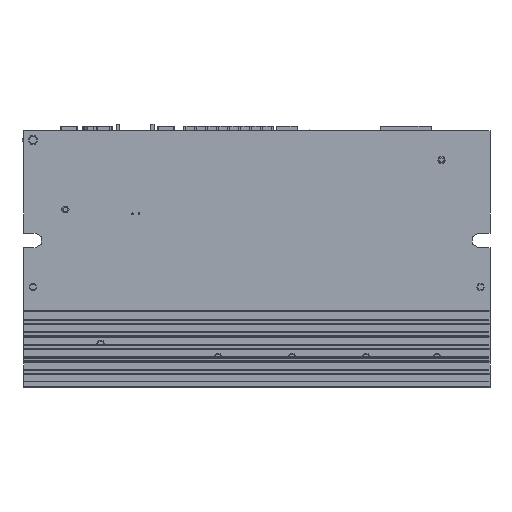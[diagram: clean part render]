
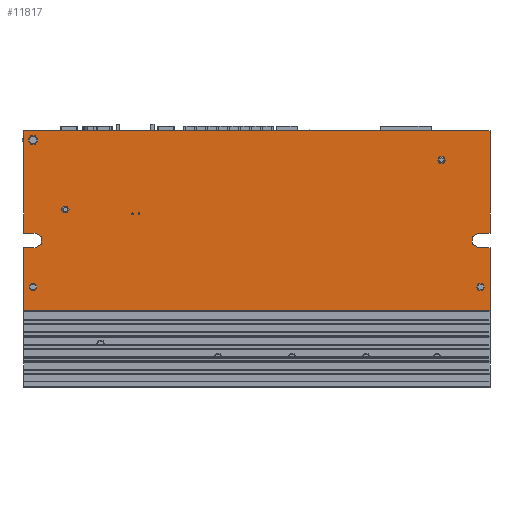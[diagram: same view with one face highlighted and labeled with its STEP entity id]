
A CAD part, front view. The second image highlights one B-rep face of the part: STEP entity #11817.
In plain terms, the highlighted planar face has unit normal (0, -1, 0).
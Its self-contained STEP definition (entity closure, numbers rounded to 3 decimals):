
#2729=CARTESIAN_POINT('',(133.3,7.3,21.6));
#2730=DIRECTION('',(0.,-1.,0.));
#2731=DIRECTION('',(1.,0.,0.));
#2732=AXIS2_PLACEMENT_3D('',#2729,#2730,#2731);
#2737=CARTESIAN_POINT('',(133.3,7.3,21.6));
#2738=DIRECTION('',(0.,-1.,0.));
#2739=DIRECTION('',(-1.,0.,0.));
#2740=AXIS2_PLACEMENT_3D('',#2737,#2738,#2739);
#2745=CARTESIAN_POINT('',(13.3,7.3,5.8));
#2746=DIRECTION('',(0.,-1.,0.));
#2747=DIRECTION('',(1.,0.,0.));
#2748=AXIS2_PLACEMENT_3D('',#2745,#2746,#2747);
#2753=CARTESIAN_POINT('',(13.3,7.3,5.8));
#2754=DIRECTION('',(0.,-1.,0.));
#2755=DIRECTION('',(-1.,0.,0.));
#2756=AXIS2_PLACEMENT_3D('',#2753,#2754,#2755);
#2761=CARTESIAN_POINT('',(3.,7.3,28.));
#2762=DIRECTION('',(0.,-1.,0.));
#2763=DIRECTION('',(1.,0.,0.));
#2764=AXIS2_PLACEMENT_3D('',#2761,#2762,#2763);
#2769=CARTESIAN_POINT('',(3.,7.3,28.));
#2770=DIRECTION('',(0.,-1.,0.));
#2771=DIRECTION('',(-1.,0.,0.));
#2772=AXIS2_PLACEMENT_3D('',#2769,#2770,#2771);
#2777=CARTESIAN_POINT('',(3.65,7.3,-4.05));
#2778=DIRECTION('',(0.,1.,0.));
#2779=DIRECTION('',(0.,0.,1.));
#2780=AXIS2_PLACEMENT_3D('',#2777,#2778,#2779);
#2785=DIRECTION('',(1.,0.,0.));
#2786=VECTOR('',#2785,3.65);
#2787=CARTESIAN_POINT('',(0.,7.3,-1.7));
#2788=LINE('',#2787,#2786);
#2792=DIRECTION('',(0.,0.,1.));
#2793=VECTOR('',#2792,32.7);
#2794=CARTESIAN_POINT('',(0.,7.3,-1.7));
#2795=LINE('',#2794,#2793);
#2799=DIRECTION('',(-1.,0.,0.));
#2800=VECTOR('',#2799,148.8);
#2801=CARTESIAN_POINT('',(148.8,7.3,31.));
#2802=LINE('',#2801,#2800);
#2806=DIRECTION('',(0.,0.,-1.));
#2807=VECTOR('',#2806,32.7);
#2808=CARTESIAN_POINT('',(148.8,7.3,31.));
#2809=LINE('',#2808,#2807);
#2813=DIRECTION('',(-1.,0.,0.));
#2814=VECTOR('',#2813,3.65);
#2815=CARTESIAN_POINT('',(148.8,7.3,-1.7));
#2816=LINE('',#2815,#2814);
#2820=CARTESIAN_POINT('',(145.15,7.3,-4.05));
#2821=DIRECTION('',(0.,1.,0.));
#2822=DIRECTION('',(0.,0.,-1.));
#2823=AXIS2_PLACEMENT_3D('',#2820,#2821,#2822);
#2828=DIRECTION('',(-1.,0.,0.));
#2829=VECTOR('',#2828,3.65);
#2830=CARTESIAN_POINT('',(148.8,7.3,-6.4));
#2831=LINE('',#2830,#2829);
#2835=DIRECTION('',(0.,0.,-1.));
#2836=VECTOR('',#2835,19.9);
#2837=CARTESIAN_POINT('',(148.8,7.3,-6.4));
#2838=LINE('',#2837,#2836);
#2842=DIRECTION('',(1.,0.,0.));
#2843=VECTOR('',#2842,148.8);
#2844=CARTESIAN_POINT('',(0.,7.3,-26.3));
#2845=LINE('',#2844,#2843);
#2849=DIRECTION('',(0.,0.,1.));
#2850=VECTOR('',#2849,19.9);
#2851=CARTESIAN_POINT('',(0.,7.3,-26.3));
#2852=LINE('',#2851,#2850);
#2856=DIRECTION('',(1.,0.,0.));
#2857=VECTOR('',#2856,3.65);
#2858=CARTESIAN_POINT('',(0.,7.3,-6.4));
#2859=LINE('',#2858,#2857);
#2863=CARTESIAN_POINT('',(3.,7.3,-18.9));
#2864=DIRECTION('',(0.,1.,0.));
#2865=DIRECTION('',(1.,0.,0.));
#2866=AXIS2_PLACEMENT_3D('',#2863,#2864,#2865);
#2871=CARTESIAN_POINT('',(3.,7.3,-18.9));
#2872=DIRECTION('',(0.,1.,0.));
#2873=DIRECTION('',(-1.,0.,0.));
#2874=AXIS2_PLACEMENT_3D('',#2871,#2872,#2873);
#2879=CARTESIAN_POINT('',(145.8,7.3,-18.9));
#2880=DIRECTION('',(0.,1.,0.));
#2881=DIRECTION('',(1.,0.,0.));
#2882=AXIS2_PLACEMENT_3D('',#2879,#2880,#2881);
#2887=CARTESIAN_POINT('',(145.8,7.3,-18.9));
#2888=DIRECTION('',(0.,1.,0.));
#2889=DIRECTION('',(-1.,0.,0.));
#2890=AXIS2_PLACEMENT_3D('',#2887,#2888,#2889);
#9476=CARTESIAN_POINT('',(0.,7.3,-26.3));
#9477=VERTEX_POINT('',#9476);
#9482=CARTESIAN_POINT('',(148.8,7.3,-26.3));
#9483=VERTEX_POINT('',#9482);
#10624=CARTESIAN_POINT('',(148.8,7.3,31.));
#10625=CARTESIAN_POINT('',(0.,7.3,31.));
#10626=VERTEX_POINT('',#10624);
#10627=VERTEX_POINT('',#10625);
#10692=CARTESIAN_POINT('',(3.65,7.3,-1.7));
#10693=CARTESIAN_POINT('',(3.65,7.3,-6.4));
#10694=VERTEX_POINT('',#10692);
#10695=VERTEX_POINT('',#10693);
#10696=CARTESIAN_POINT('',(0.,7.3,-6.4));
#10697=VERTEX_POINT('',#10696);
#10698=CARTESIAN_POINT('',(0.,7.3,-1.7));
#10699=VERTEX_POINT('',#10698);
#10700=CARTESIAN_POINT('',(148.8,7.3,-6.4));
#10701=CARTESIAN_POINT('',(145.15,7.3,-6.4));
#10702=VERTEX_POINT('',#10700);
#10703=VERTEX_POINT('',#10701);
#10704=CARTESIAN_POINT('',(145.15,7.3,-1.7));
#10705=VERTEX_POINT('',#10704);
#10706=CARTESIAN_POINT('',(148.8,7.3,-1.7));
#10707=VERTEX_POINT('',#10706);
#10708=CARTESIAN_POINT('',(4.5,7.3,28.));
#10709=CARTESIAN_POINT('',(1.5,7.3,28.));
#10710=VERTEX_POINT('',#10708);
#10711=VERTEX_POINT('',#10709);
#10790=CARTESIAN_POINT('',(4.25,7.3,-18.9));
#10791=CARTESIAN_POINT('',(1.75,7.3,-18.9));
#10792=VERTEX_POINT('',#10790);
#10793=VERTEX_POINT('',#10791);
#10798=CARTESIAN_POINT('',(147.05,7.3,-18.9));
#10799=CARTESIAN_POINT('',(144.55,7.3,-18.9));
#10800=VERTEX_POINT('',#10798);
#10801=VERTEX_POINT('',#10799);
#10806=CARTESIAN_POINT('',(134.55,7.3,21.6));
#10807=CARTESIAN_POINT('',(132.05,7.3,21.6));
#10808=VERTEX_POINT('',#10806);
#10809=VERTEX_POINT('',#10807);
#10814=CARTESIAN_POINT('',(14.55,7.3,5.8));
#10815=CARTESIAN_POINT('',(12.05,7.3,5.8));
#10816=VERTEX_POINT('',#10814);
#10817=VERTEX_POINT('',#10815);
#11760=CARTESIAN_POINT('',(148.8,7.3,-25.5));
#11761=DIRECTION('',(0.,-1.,0.));
#11762=DIRECTION('',(0.,0.,-1.));
#11763=AXIS2_PLACEMENT_3D('',#11760,#11761,#11762);
#11764=PLANE('',#11763);
#11766=ORIENTED_EDGE('',*,*,#11765,.F.);
#11768=ORIENTED_EDGE('',*,*,#11767,.F.);
#11769=ORIENTED_EDGE('',*,*,#10887,.T.);
#11771=ORIENTED_EDGE('',*,*,#11770,.F.);
#11773=ORIENTED_EDGE('',*,*,#11772,.T.);
#11775=ORIENTED_EDGE('',*,*,#11774,.T.);
#11777=ORIENTED_EDGE('',*,*,#11776,.F.);
#11779=ORIENTED_EDGE('',*,*,#11778,.F.);
#11781=ORIENTED_EDGE('',*,*,#11780,.T.);
#11783=ORIENTED_EDGE('',*,*,#11782,.F.);
#11784=ORIENTED_EDGE('',*,*,#10909,.T.);
#11786=ORIENTED_EDGE('',*,*,#11785,.T.);
#11787=EDGE_LOOP('',(#11766,#11768,#11769,#11771,#11773,#11775,#11777,#11779,
#11781,#11783,#11784,#11786));
#11788=FACE_OUTER_BOUND('',#11787,.F.);
#11790=ORIENTED_EDGE('',*,*,#11789,.T.);
#11792=ORIENTED_EDGE('',*,*,#11791,.T.);
#11793=EDGE_LOOP('',(#11790,#11792));
#11794=FACE_BOUND('',#11793,.F.);
#11795=ORIENTED_EDGE('',*,*,#11740,.T.);
#11796=ORIENTED_EDGE('',*,*,#11754,.T.);
#11797=EDGE_LOOP('',(#11795,#11796));
#11798=FACE_BOUND('',#11797,.F.);
#11800=ORIENTED_EDGE('',*,*,#11799,.T.);
#11802=ORIENTED_EDGE('',*,*,#11801,.T.);
#11803=EDGE_LOOP('',(#11800,#11802));
#11804=FACE_BOUND('',#11803,.F.);
#11806=ORIENTED_EDGE('',*,*,#11805,.F.);
#11808=ORIENTED_EDGE('',*,*,#11807,.F.);
#11809=EDGE_LOOP('',(#11806,#11808));
#11810=FACE_BOUND('',#11809,.F.);
#11812=ORIENTED_EDGE('',*,*,#11811,.F.);
#11814=ORIENTED_EDGE('',*,*,#11813,.F.);
#11815=EDGE_LOOP('',(#11812,#11814));
#11816=FACE_BOUND('',#11815,.F.);
#2733=CIRCLE('',#2732,1.25);
#2741=CIRCLE('',#2740,1.25);
#2749=CIRCLE('',#2748,1.25);
#2757=CIRCLE('',#2756,1.25);
#2765=CIRCLE('',#2764,1.5);
#2773=CIRCLE('',#2772,1.5);
#2781=CIRCLE('',#2780,2.35);
#2824=CIRCLE('',#2823,2.35);
#2867=CIRCLE('',#2866,1.25);
#2875=CIRCLE('',#2874,1.25);
#2883=CIRCLE('',#2882,1.25);
#2891=CIRCLE('',#2890,1.25);
#10887=EDGE_CURVE('',#10699,#10627,#2795,.T.);
#10909=EDGE_CURVE('',#9477,#10697,#2852,.T.);
#11740=EDGE_CURVE('',#10710,#10711,#2765,.T.);
#11754=EDGE_CURVE('',#10711,#10710,#2773,.T.);
#11765=EDGE_CURVE('',#10694,#10695,#2781,.T.);
#11767=EDGE_CURVE('',#10699,#10694,#2788,.T.);
#11770=EDGE_CURVE('',#10626,#10627,#2802,.T.);
#11772=EDGE_CURVE('',#10626,#10707,#2809,.T.);
#11774=EDGE_CURVE('',#10707,#10705,#2816,.T.);
#11776=EDGE_CURVE('',#10703,#10705,#2824,.T.);
#11778=EDGE_CURVE('',#10702,#10703,#2831,.T.);
#11780=EDGE_CURVE('',#10702,#9483,#2838,.T.);
#11782=EDGE_CURVE('',#9477,#9483,#2845,.T.);
#11785=EDGE_CURVE('',#10697,#10695,#2859,.T.);
#11789=EDGE_CURVE('',#10816,#10817,#2749,.T.);
#11791=EDGE_CURVE('',#10817,#10816,#2757,.T.);
#11799=EDGE_CURVE('',#10808,#10809,#2733,.T.);
#11801=EDGE_CURVE('',#10809,#10808,#2741,.T.);
#11805=EDGE_CURVE('',#10792,#10793,#2867,.T.);
#11807=EDGE_CURVE('',#10793,#10792,#2875,.T.);
#11811=EDGE_CURVE('',#10800,#10801,#2883,.T.);
#11813=EDGE_CURVE('',#10801,#10800,#2891,.T.);
#11817=ADVANCED_FACE('',(#11788,#11794,#11798,#11804,#11810,#11816),#11764,.T.);
